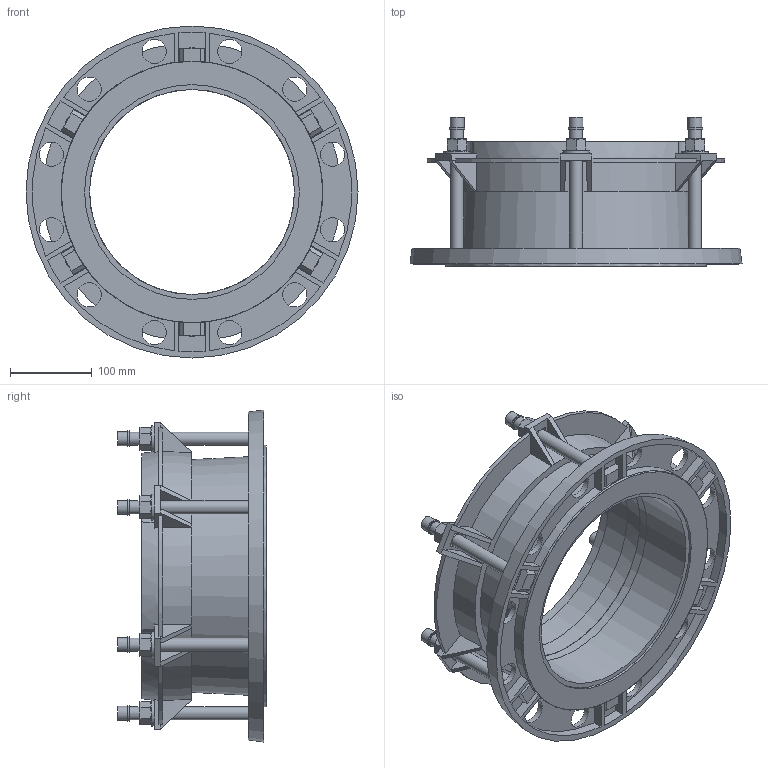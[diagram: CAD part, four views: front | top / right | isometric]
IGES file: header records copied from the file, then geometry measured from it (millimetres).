
Start section: SolidWorks IGES file using analytic representation for surfaces
Global section: file name: \\avksan2\techshare\PBM outline export from Enovia\O_623_10_DN250-250mm_X1XXXXX_REV01.igs; native system: SolidWorks 2019; preprocessor: SolidWorks 2019; author: pbm; date: 200417.110842; units: millimetre
Bounding box: 405 x 181.5 x 405 mm (x, y, z)
Surface area: 613737.2 mm2 (no closed solid volume)
Topology: 0 solids, 0 shells, 567 faces, 2799 edges, 2730 vertices
Faces by surface type: bspline 328, revolution 239
